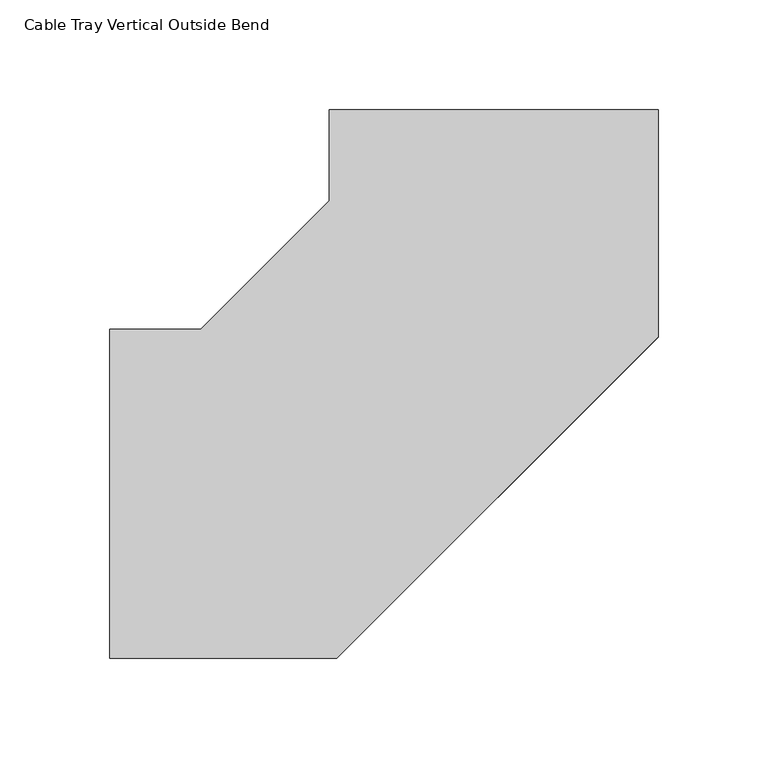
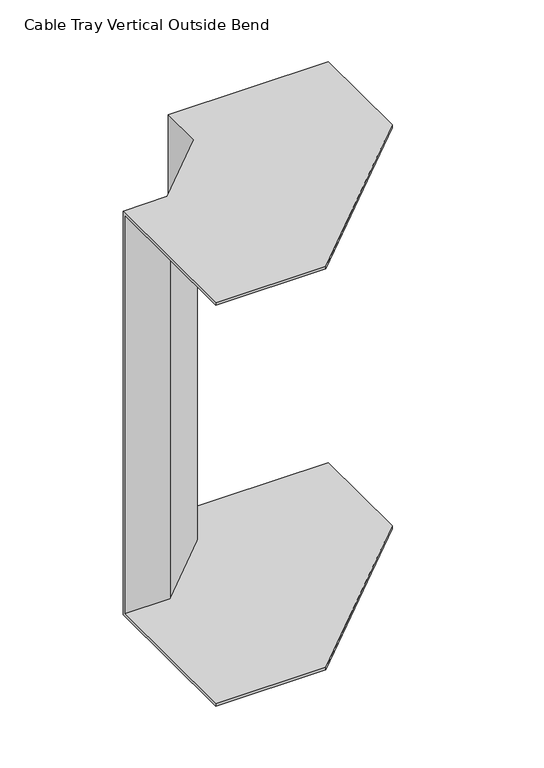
"""IFC4 building model written with IfcOpenShell, lengths in millimetres: cable carrier fitting geometry, Cable Tray Vertical Outside Bend : ELEC_ELV_TKG_N2402."""

from ifc_helpers import new_model, si_unit, origin, place, context, project, spatial, faceted_brep, source, transform, mapped, element, save


def cable_tray_vertical_outside_bend_43f46f6e(model_context):
    return source(origin(), model_context, "Body", "Brep", [
        faceted_brep([(-175.0, -75.0, 200.0), (-175.0, 75.0, 200.0), (-175.0, 75.0, -200.0), (-175.0, -75.0, -200.0), (-175.0, -75.0, -197.46), (-175.0, 72.46, -197.46), (-175.0, 72.46, 197.46), (-175.0, -75.0, 197.46), (75.0, 175.0, 200.0), (75.0, 175.0, 197.46), (-72.46, 175.0, 197.46), (-72.46, 175.0, -197.46), (75.0, 175.0, -197.46), (75.0, 175.0, -200.0), (-75.0, 175.0, -200.0), (-75.0, 175.0, 200.0), (-71.4466094, -75.0, 200.0), (75.0, 71.4466094, 200.0), (-75.0, 133.5786438, 200.0), (-133.5786438, 75.0, 200.0), (-133.5786438, 75.0, -200.0), (-75.0, 133.5786438, -200.0), (75.0, 71.4466094, -200.0), (-71.4466094, -75.0, -200.0), (-71.4466094, -75.0, -197.46), (75.0, 71.4466094, -197.46), (-72.46, 132.5265413, -197.46), (-132.5265413, 72.46, -197.46), (-132.5265413, 72.46, 197.46), (-72.46, 132.5265413, 197.46), (75.0, 71.4466094, 197.46), (-71.4466094, -75.0, 197.46)], [[[0, 1, 2, 3, 4, 5, 6, 7]], [[8, 9, 10, 11, 12, 13, 14, 15]], [[1, 0, 16, 17, 8, 15, 18, 19]], [[2, 1, 19, 20]], [[3, 2, 20, 21, 14, 13, 22, 23]], [[4, 3, 23, 24]], [[5, 4, 24, 25, 12, 11, 26, 27]], [[6, 5, 27, 28]], [[7, 6, 28, 29, 10, 9, 30, 31]], [[0, 7, 31, 16]], [[20, 19, 18, 21]], [[24, 23, 22, 25]], [[28, 27, 26, 29]], [[16, 31, 30, 17]], [[21, 18, 15, 14]], [[25, 22, 13, 12]], [[29, 26, 11, 10]], [[17, 30, 9, 8]]]),
    ])


if __name__ == "__main__":
    model = new_model("IFC4")
    model_context = context("Model", 3, world=origin())
    ifc_project = project(units=[si_unit("LENGTHUNIT", "METRE", prefix="MILLI")], contexts=[model_context])
    site = spatial("IfcSite", under=ifc_project)
    building = spatial("IfcBuilding", under=site)
    placement = place(None, origin())
    cable_tray_vertical_outside_bend_shape = cable_tray_vertical_outside_bend_43f46f6e(model_context)
    element("IfcCableCarrierFitting", 1, ObjectType="Cable Tray Vertical Outside Bend : ELEC_ELV_TKG_N2402", at=placement, inside=building, context=model_context, shape_type="MappedRepresentation", body=[
        mapped(cable_tray_vertical_outside_bend_shape, transform((0.0, 0.0, 0.0), x_axis=(1.0, 0.0, 0.0), y_axis=(0.0, 1.0, 0.0), z_axis=(0.0, 0.0, 1.0))),
    ])
    save(model, "model.ifc")
